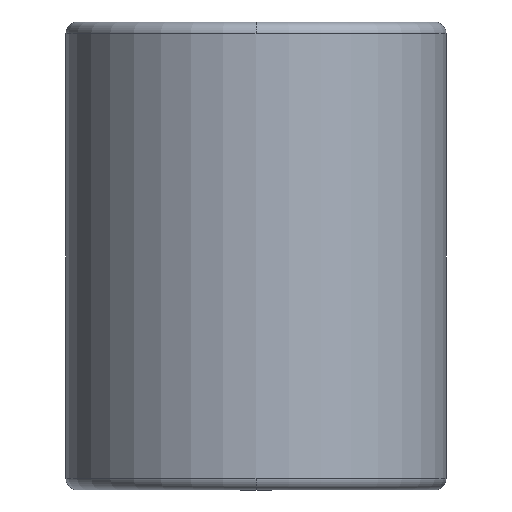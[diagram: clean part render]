
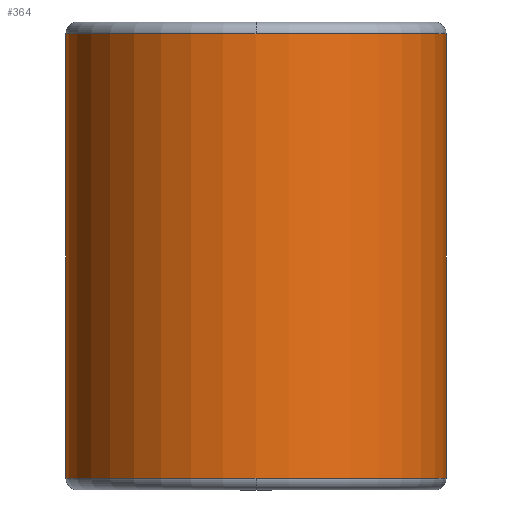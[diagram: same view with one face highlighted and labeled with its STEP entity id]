
A CAD part, front view. The second image highlights one B-rep face of the part: STEP entity #364.
In plain terms, the highlighted cylindrical face has radius 32.493 mm (diameter 64.986 mm), a partial arc.
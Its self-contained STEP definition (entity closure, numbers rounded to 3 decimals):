
#269=CARTESIAN_POINT('',(0.0,-32.493,78.));
#270=VERTEX_POINT('',#269);
#296=CARTESIAN_POINT('',(-32.493,0.,78.0));
#297=VERTEX_POINT('',#296);
#305=CARTESIAN_POINT('',(0.0,0.,78.0));
#306=DIRECTION('',(0.0,0.0,1.0));
#307=DIRECTION('',(1.0,0.0,0.0));
#308=AXIS2_PLACEMENT_3D('',#305,#306,#307);
#309=CIRCLE('',#308,32.493);
#310=EDGE_CURVE('',#297,#270,#309,.T.);
#315=CARTESIAN_POINT('',(0.0,0.,40.0));
#316=DIRECTION('',(0.0,0.,1.0));
#317=DIRECTION('',(1.0,0.0,0.0));
#318=AXIS2_PLACEMENT_3D('',#315,#316,#317);
#319=CYLINDRICAL_SURFACE('',#318,32.493);
#320=CARTESIAN_POINT('',(32.493,0.,78.0));
#321=VERTEX_POINT('',#320);
#322=CARTESIAN_POINT('',(32.493,0.,2.));
#323=VERTEX_POINT('',#322);
#324=CARTESIAN_POINT('',(32.493,0.,78.0));
#325=DIRECTION('',(0.0,0.0,-1.0));
#326=VECTOR('',#325,76.0);
#327=LINE('',#324,#326);
#328=EDGE_CURVE('',#321,#323,#327,.T.);
#329=ORIENTED_EDGE('',*,*,#328,.F.);
#330=CARTESIAN_POINT('',(0.0,0.,78.0));
#331=DIRECTION('',(0.0,0.0,1.0));
#332=DIRECTION('',(1.0,0.0,0.0));
#333=AXIS2_PLACEMENT_3D('',#330,#331,#332);
#334=CIRCLE('',#333,32.493);
#335=EDGE_CURVE('',#270,#321,#334,.T.);
#336=ORIENTED_EDGE('',*,*,#335,.F.);
#337=ORIENTED_EDGE('',*,*,#310,.F.);
#338=CARTESIAN_POINT('',(-32.493,0.,2.0));
#339=VERTEX_POINT('',#338);
#340=CARTESIAN_POINT('',(-32.493,0.,78.0));
#341=DIRECTION('',(0.0,0.0,-1.0));
#342=VECTOR('',#341,76.0);
#343=LINE('',#340,#342);
#344=EDGE_CURVE('',#297,#339,#343,.T.);
#345=ORIENTED_EDGE('',*,*,#344,.T.);
#346=CARTESIAN_POINT('',(0.0,-32.493,2.));
#347=VERTEX_POINT('',#346);
#348=CARTESIAN_POINT('',(0.0,0.,2.0));
#349=DIRECTION('',(0.0,0.0,1.0));
#350=DIRECTION('',(1.0,0.0,0.0));
#351=AXIS2_PLACEMENT_3D('',#348,#349,#350);
#352=CIRCLE('',#351,32.493);
#353=EDGE_CURVE('',#339,#347,#352,.T.);
#354=ORIENTED_EDGE('',*,*,#353,.T.);
#355=CARTESIAN_POINT('',(0.0,0.,2.0));
#356=DIRECTION('',(0.0,0.0,1.0));
#357=DIRECTION('',(1.0,0.0,0.0));
#358=AXIS2_PLACEMENT_3D('',#355,#356,#357);
#359=CIRCLE('',#358,32.493);
#360=EDGE_CURVE('',#347,#323,#359,.T.);
#361=ORIENTED_EDGE('',*,*,#360,.T.);
#362=EDGE_LOOP('',(#329,#336,#337,#345,#354,#361));
#363=FACE_OUTER_BOUND('',#362,.T.);
#364=ADVANCED_FACE('',(#363),#319,.T.);
